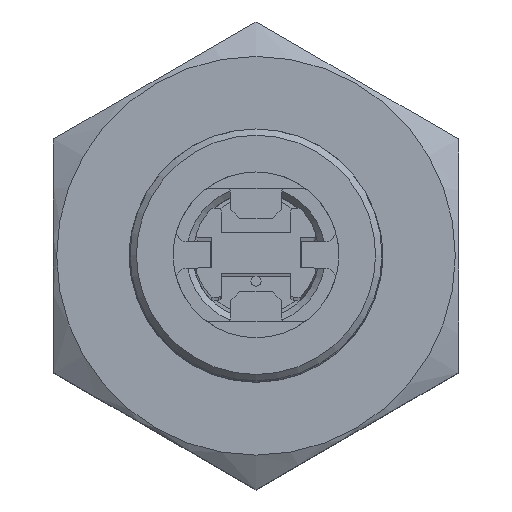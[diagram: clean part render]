
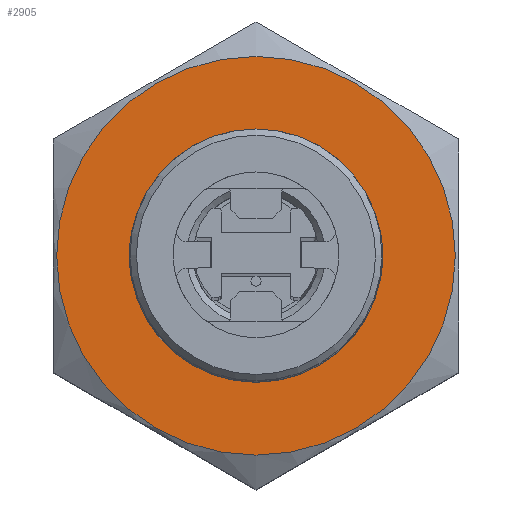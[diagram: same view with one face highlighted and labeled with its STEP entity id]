
A CAD part, top view. The second image highlights one B-rep face of the part: STEP entity #2905.
In plain terms, the highlighted planar face has unit normal (0, 0, 1) as drawn and (0, 0, -1) by its records, which use the part's own axes.
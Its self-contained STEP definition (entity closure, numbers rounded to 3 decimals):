
#162 = VERTEX_POINT ( 'NONE', #1441 ) ;
#333 = CARTESIAN_POINT ( 'NONE',  ( 0., 0., -28.6 ) ) ;
#874 = DIRECTION ( 'NONE',  ( -1., 0., 0. ) ) ;
#896 = DIRECTION ( 'NONE',  ( 0., 0., 1. ) ) ;
#1018 = AXIS2_PLACEMENT_3D ( 'NONE', #2491, #5892, #2514 ) ;
#1155 = CIRCLE ( 'NONE', #1018, 15.75 ) ;
#1197 = EDGE_LOOP ( 'NONE', ( #5662 ) ) ;
#1441 = CARTESIAN_POINT ( 'NONE',  ( 15.75, 0., -28.6 ) ) ;
#1734 = EDGE_CURVE ( 'NONE', #162, #162, #1155, .T. ) ;
#2378 = CARTESIAN_POINT ( 'NONE',  ( 16., 27.713, -28.6 ) ) ;
#2491 = CARTESIAN_POINT ( 'NONE',  ( 0., 0., -28.6 ) ) ;
#2514 = DIRECTION ( 'NONE',  ( 1., 0., 0. ) ) ;
#2600 = EDGE_LOOP ( 'NONE', ( #7146 ) ) ;
#2905 = ADVANCED_FACE ( 'NONE', ( #2987, #5370 ), #5717, .T. ) ;
#2987 = FACE_BOUND ( 'NONE', #2600, .T. ) ;
#3905 = EDGE_CURVE ( 'NONE', #3918, #3918, #5992, .T. ) ;
#3918 = VERTEX_POINT ( 'NONE', #5504 ) ;
#5285 = AXIS2_PLACEMENT_3D ( 'NONE', #333, #896, #874 ) ;
#5370 = FACE_OUTER_BOUND ( 'NONE', #1197, .T. ) ;
#5474 = AXIS2_PLACEMENT_3D ( 'NONE', #2378, #6745, #6767 ) ;
#5504 = CARTESIAN_POINT ( 'NONE',  ( -9.275, 0., -28.6 ) ) ;
#5662 = ORIENTED_EDGE ( 'NONE', *, *, #1734, .F. ) ;
#5717 = PLANE ( 'NONE',  #5474 ) ;
#5892 = DIRECTION ( 'NONE',  ( 0., 0., 1. ) ) ;
#5992 = CIRCLE ( 'NONE', #5285, 9.275 ) ;
#6745 = DIRECTION ( 'NONE',  ( 0., 0., -1. ) ) ;
#6767 = DIRECTION ( 'NONE',  ( -1., 0., 0. ) ) ;
#7146 = ORIENTED_EDGE ( 'NONE', *, *, #3905, .T. ) ;
